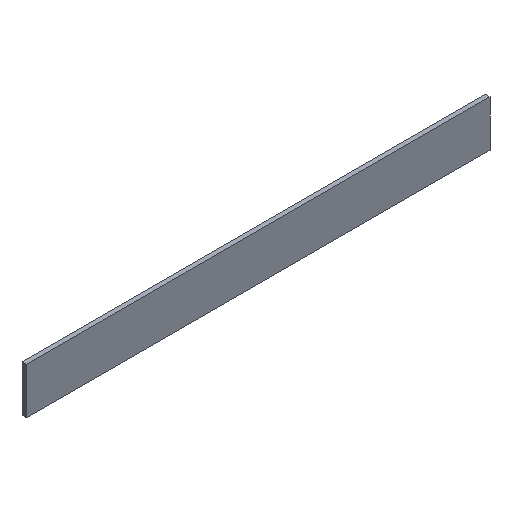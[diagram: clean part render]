
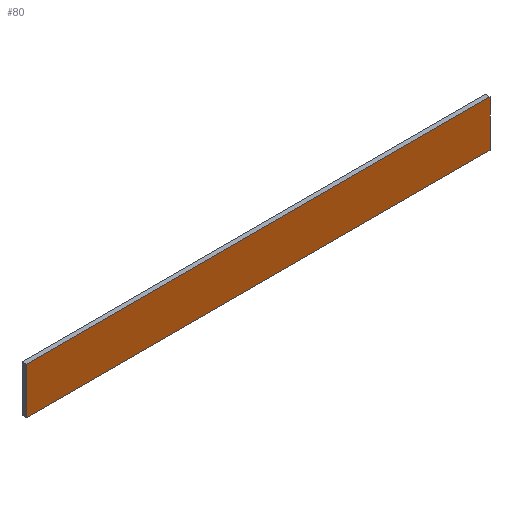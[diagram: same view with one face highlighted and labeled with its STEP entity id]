
A CAD part, isometric view. The second image highlights one B-rep face of the part: STEP entity #80.
In plain terms, the highlighted planar face has unit normal (0, -1, 0).
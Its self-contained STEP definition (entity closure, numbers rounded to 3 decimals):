
#2 = DIRECTION ( 'NONE',  ( 0., 0., -1. ) ) ;
#3 = VECTOR ( 'NONE', #175, 1000. ) ;
#9 = EDGE_CURVE ( 'NONE', #76, #17, #146, .T. ) ;
#14 = ORIENTED_EDGE ( 'NONE', *, *, #133, .F. ) ;
#17 = VERTEX_POINT ( 'NONE', #186 ) ;
#24 = AXIS2_PLACEMENT_3D ( 'NONE', #55, #174, #82 ) ;
#25 = DIRECTION ( 'NONE',  ( 0., 0., -1. ) ) ;
#29 = VERTEX_POINT ( 'NONE', #162 ) ;
#33 = LINE ( 'NONE', #197, #74 ) ;
#38 = CARTESIAN_POINT ( 'NONE',  ( -500., -5., 50. ) ) ;
#42 = CARTESIAN_POINT ( 'NONE',  ( 500., -5., -50. ) ) ;
#54 = CARTESIAN_POINT ( 'NONE',  ( -500., -5., 50. ) ) ;
#55 = CARTESIAN_POINT ( 'NONE',  ( -500., -5., 50. ) ) ;
#65 = DIRECTION ( 'NONE',  ( 1., 0., 0. ) ) ;
#74 = VECTOR ( 'NONE', #25, 1000. ) ;
#76 = VERTEX_POINT ( 'NONE', #54 ) ;
#77 = VECTOR ( 'NONE', #2, 1000. ) ;
#80 = ADVANCED_FACE ( 'NONE', ( #102 ), #96, .F. ) ;
#82 = DIRECTION ( 'NONE',  ( 0., 0., 1. ) ) ;
#96 = PLANE ( 'NONE',  #24 ) ;
#102 = FACE_OUTER_BOUND ( 'NONE', #182, .T. ) ;
#106 = EDGE_CURVE ( 'NONE', #17, #184, #163, .T. ) ;
#107 = VECTOR ( 'NONE', #65, 1000. ) ;
#108 = ORIENTED_EDGE ( 'NONE', *, *, #9, .T. ) ;
#111 = CARTESIAN_POINT ( 'NONE',  ( -500., -5., 50. ) ) ;
#133 = EDGE_CURVE ( 'NONE', #29, #184, #33, .T. ) ;
#138 = EDGE_CURVE ( 'NONE', #76, #29, #200, .T. ) ;
#146 = LINE ( 'NONE', #38, #77 ) ;
#162 = CARTESIAN_POINT ( 'NONE',  ( 500., -5., 50. ) ) ;
#163 = LINE ( 'NONE', #192, #3 ) ;
#174 = DIRECTION ( 'NONE',  ( 0., 1., 0. ) ) ;
#175 = DIRECTION ( 'NONE',  ( 1., 0., 0. ) ) ;
#176 = ORIENTED_EDGE ( 'NONE', *, *, #106, .T. ) ;
#182 = EDGE_LOOP ( 'NONE', ( #176, #14, #196, #108 ) ) ;
#184 = VERTEX_POINT ( 'NONE', #42 ) ;
#186 = CARTESIAN_POINT ( 'NONE',  ( -500., -5., -50. ) ) ;
#192 = CARTESIAN_POINT ( 'NONE',  ( -500., -5., -50. ) ) ;
#196 = ORIENTED_EDGE ( 'NONE', *, *, #138, .F. ) ;
#197 = CARTESIAN_POINT ( 'NONE',  ( 500., -5., 50. ) ) ;
#200 = LINE ( 'NONE', #111, #107 ) ;
